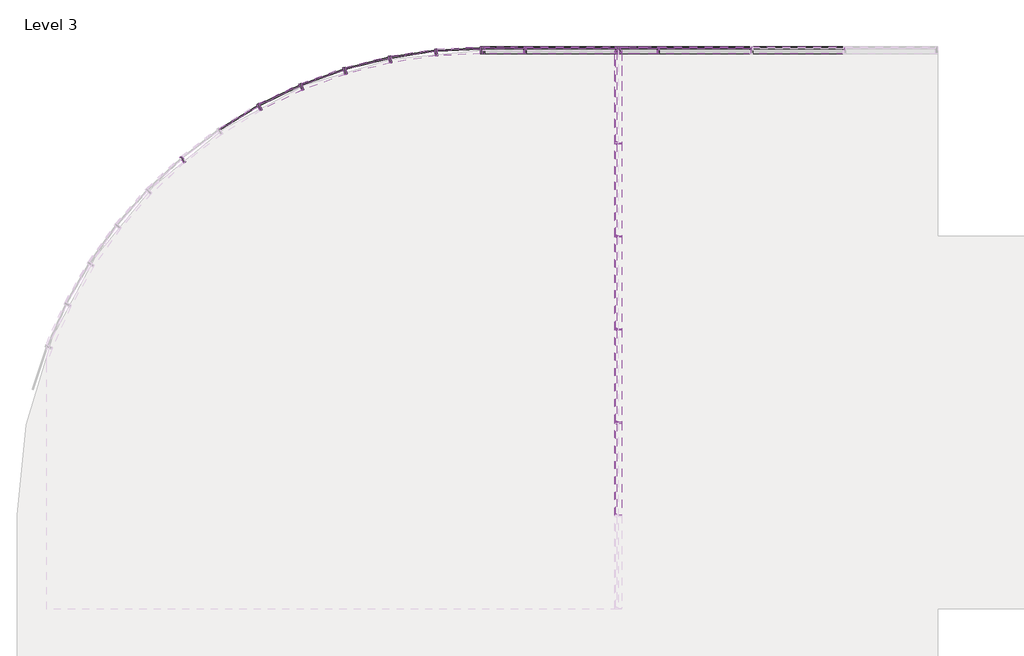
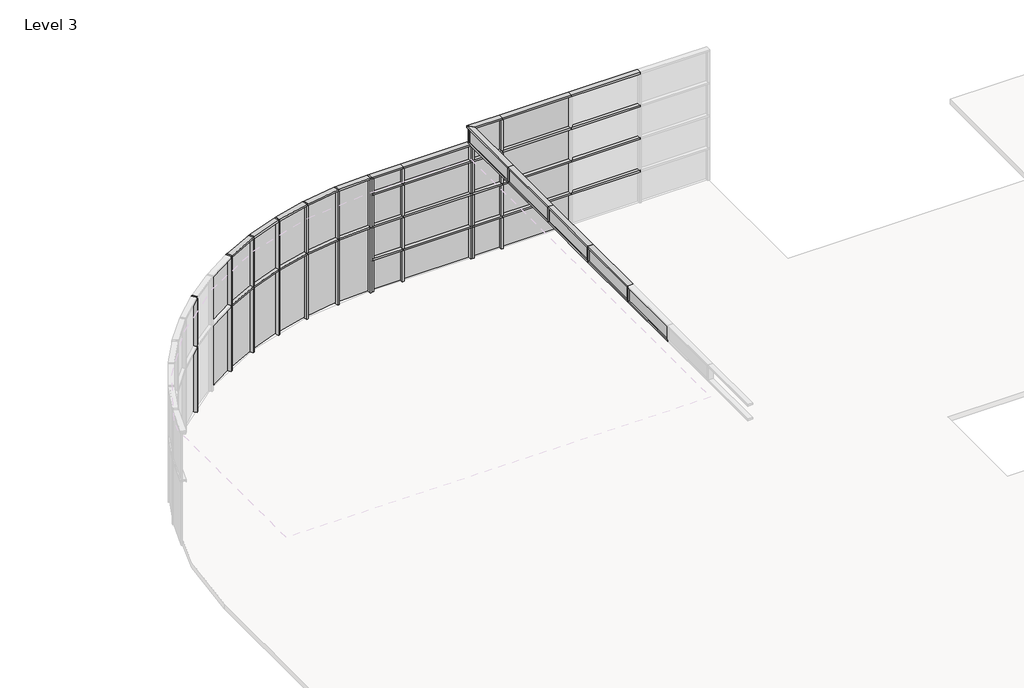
# One storey, part 5 of 6: 79 members, 33 plates.
"""IFC4 building model written with IfcOpenShell, lengths in millimetres."""

from ifc_helpers import new_model, si_unit, origin, place, context, project, spatial, transform, mapped, element, save
from components import rectangular_mullion_50_x_150mm_a053b0ca, rectangular_mullion_50_x_150mm_aa47fe12, rectangular_mullion_50_x_150mm_3a148f0f, rectangular_mullion_50_x_150mm_12a430f9, rectangular_mullion_50_x_150mm_7b680336, rectangular_mullion_50_x_150mm_628d028e, rectangular_mullion_50_x_150mm_11df4cda, rectangular_mullion_50_x_150mm_92e7435e, rectangular_mullion_50_x_150mm_326b7c62, rectangular_mullion_50_x_150mm_a54f4cf2, rectangular_mullion_50_x_150mm_f8023bcf, rectangular_mullion_50_x_150mm_25f32059, rectangular_mullion_50_x_150mm_4ec38d8a, rectangular_mullion_50_x_150mm_3195318e, rectangular_mullion_50_x_150mm_5088cc46, rectangular_mullion_50_x_150mm_9aace082, rectangular_mullion_50_x_150mm_a06870f1, rectangular_mullion_50_x_150mm_0c16550b, rectangular_mullion_50_x_150mm_f1bc9ffe, rectangular_mullion_50_x_150mm_c4a1d10e, rectangular_mullion_50_x_150mm_947845bb, system_panel_glazed_751a585c, system_panel_glazed_08de6f5f, system_panel_glazed_378b0738, system_panel_glazed_10bebfc7, system_panel_glazed_ff23e140, system_panel_glazed_c2d2b348, system_panel_glazed_b9387e44, system_panel_glazed_35008834, system_panel_glazed_24c71900, system_panel_glazed_252945b7, system_panel_glazed_f6651b73, system_panel_glazed_3868a10e, system_panel_glazed_3cd28d6c

model = new_model("IFC4")

# Units and contexts
model_context = context("Model", 3, world=origin())
ifc_project = project(units=[si_unit("LENGTHUNIT", "METRE", prefix="MILLI")], contexts=[model_context])

# Site, building, storey
site = spatial("IfcSite", under=ifc_project)
building = spatial("IfcBuilding", under=site)
storey = spatial("IfcBuildingStorey", under=building, Name="Level 3", Elevation=8000.0)

# Members
placement = place(None, origin())
rectangular_mullion_50_x_150mm_shape = rectangular_mullion_50_x_150mm_a053b0ca(model_context)
element("IfcMember", 1, ObjectType="Rectangular Mullion : 50 x 150mm", at=placement, inside=storey, context=model_context, shape_type="MappedRepresentation", body=[
    mapped(rectangular_mullion_50_x_150mm_shape, transform((-7587.173406, 8375.9839566, 8025.0), x_axis=(-1.0, 0.0, 0.0), y_axis=(0.0, 1.0, 0.0), z_axis=(0.0, 0.0, -1.0))),
])
element("IfcMember", 2, ObjectType="Rectangular Mullion : 50 x 150mm", at=placement, inside=storey, context=model_context, shape_type="MappedRepresentation", body=[
    mapped(rectangular_mullion_50_x_150mm_shape, transform((-7587.173406, 8375.9839566, 9025.0), x_axis=(-1.0, 0.0, 0.0), y_axis=(0.0, 1.0, 0.0), z_axis=(0.0, 0.0, -0.9999999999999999))),
])
element("IfcMember", 3, ObjectType="Rectangular Mullion : 50 x 150mm", at=placement, inside=storey, context=model_context, shape_type="MappedRepresentation", body=[
    mapped(rectangular_mullion_50_x_150mm_shape, transform((-7587.173406, 8375.9839566, 10025.0), x_axis=(-1.0, 0.0, 0.0), y_axis=(0.0, 1.0, 0.0), z_axis=(0.0, 0.0, -1.0))),
])
element("IfcMember", 4, ObjectType="Rectangular Mullion : 50 x 150mm", at=placement, inside=storey, context=model_context, shape_type="MappedRepresentation", body=[
    mapped(rectangular_mullion_50_x_150mm_shape, transform((-4721.580781, 8375.9839566, 8025.0), x_axis=(-1.0, 0.0, 0.0), y_axis=(0.0, 1.0, 0.0), z_axis=(0.0, 0.0, -1.0))),
])
element("IfcMember", 5, ObjectType="Rectangular Mullion : 50 x 150mm", at=placement, inside=storey, context=model_context, shape_type="MappedRepresentation", body=[
    mapped(rectangular_mullion_50_x_150mm_shape, transform((-4721.580781, 8375.9839566, 9025.0), x_axis=(-1.0, 0.0, 0.0), y_axis=(0.0, 1.0, 0.0), z_axis=(0.0, 0.0, -0.9999999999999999))),
])
element("IfcMember", 6, ObjectType="Rectangular Mullion : 50 x 150mm", at=placement, inside=storey, context=model_context, shape_type="MappedRepresentation", body=[
    mapped(rectangular_mullion_50_x_150mm_shape, transform((-4721.580781, 8375.9839566, 10025.0), x_axis=(-1.0, 0.0, 0.0), y_axis=(0.0, 1.0, 0.0), z_axis=(0.0, 0.0, -1.0))),
])
element("IfcMember", 7, ObjectType="Rectangular Mullion : 50 x 150mm", at=placement, inside=storey, context=model_context, shape_type="MappedRepresentation", body=[
    mapped(rectangular_mullion_50_x_150mm_shape, transform((-4721.580781, 8375.9839566, 11025.0), x_axis=(-1.0, 0.0, 0.0), y_axis=(0.0, 1.0, 0.0), z_axis=(0.0, 0.0, -0.9999999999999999))),
])
rectangular_mullion_50_x_150mm_2_shape = rectangular_mullion_50_x_150mm_aa47fe12(model_context)
element("IfcMember", 8, ObjectType="Rectangular Mullion : 50 x 150mm", at=placement, inside=storey, context=model_context, shape_type="MappedRepresentation", body=[
    mapped(rectangular_mullion_50_x_150mm_2_shape, transform((-7587.173406, 8375.9839566, 11530.2574105), x_axis=(0.0, 0.0, 1.0), y_axis=(0.0, 1.0, 0.0), z_axis=(-1.0, 0.0, 0.0))),
])
element("IfcMember", 9, ObjectType="Rectangular Mullion : 50 x 150mm", at=placement, inside=storey, context=model_context, shape_type="MappedRepresentation", body=[
    mapped(rectangular_mullion_50_x_150mm_2_shape, transform((-5587.173406, 6375.9839566, 11530.2574105), x_axis=(0.0, 0.0, -1.0), y_axis=(-1.0, 0.0, 0.0), z_axis=(0.0, 1.0, 0.0))),
])
element("IfcMember", 10, ObjectType="Rectangular Mullion : 50 x 150mm", at=placement, inside=storey, context=model_context, shape_type="MappedRepresentation", body=[
    mapped(rectangular_mullion_50_x_150mm_2_shape, transform((-5587.173406, 4375.9839566, 11530.2574105), x_axis=(0.0, 0.0, -1.0), y_axis=(-1.0, 0.0, 0.0), z_axis=(0.0, 1.0, 0.0))),
])
element("IfcMember", 11, ObjectType="Rectangular Mullion : 50 x 150mm", at=placement, inside=storey, context=model_context, shape_type="MappedRepresentation", body=[
    mapped(rectangular_mullion_50_x_150mm_2_shape, transform((-5587.173406, 2375.9839566, 11530.2574105), x_axis=(0.0, 0.0, -1.0), y_axis=(-1.0, 0.0, 0.0), z_axis=(0.0, 1.0, 0.0))),
])
element("IfcMember", 12, ObjectType="Rectangular Mullion : 50 x 150mm", at=placement, inside=storey, context=model_context, shape_type="MappedRepresentation", body=[
    mapped(rectangular_mullion_50_x_150mm_2_shape, transform((-5587.173406, 375.9839566, 11530.2574105), x_axis=(0.0, 0.0, -1.0), y_axis=(-1.0, 0.0, 0.0), z_axis=(0.0, 1.0, 0.0))),
])
element("IfcMember", 13, ObjectType="Rectangular Mullion : 50 x 150mm", at=placement, inside=storey, context=model_context, shape_type="MappedRepresentation", body=[
    mapped(rectangular_mullion_50_x_150mm_2_shape, transform((-8496.7339025, 8375.9839566, 10000.0), x_axis=(0.998749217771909, 0.049999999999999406, 0.0), y_axis=(-0.049999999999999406, 0.998749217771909, 0.0), z_axis=(0.0, 0.0, 1.0))),
])
rectangular_mullion_50_x_150mm_3_shape = rectangular_mullion_50_x_150mm_3a148f0f(model_context)
element("IfcMember", 14, ObjectType="Rectangular Mullion : 50 x 150mm", at=placement, inside=storey, context=model_context, shape_type="MappedRepresentation", body=[
    mapped(rectangular_mullion_50_x_150mm_3_shape, transform((-5587.173406, 4375.9839566, 12000.0), x_axis=(0.0, 0.0, 1.0), y_axis=(-1.0, 0.0, 0.0), z_axis=(0.0, -1.0, 0.0))),
])
element("IfcMember", 15, ObjectType="Rectangular Mullion : 50 x 150mm", at=placement, inside=storey, context=model_context, shape_type="MappedRepresentation", body=[
    mapped(rectangular_mullion_50_x_150mm_3_shape, transform((-5587.173406, 2375.9839566, 12000.0), x_axis=(0.0, 0.0, 1.0), y_axis=(-1.0, 0.0, 0.0), z_axis=(0.0, -1.0, 0.0))),
])
element("IfcMember", 16, ObjectType="Rectangular Mullion : 50 x 150mm", at=placement, inside=storey, context=model_context, shape_type="MappedRepresentation", body=[
    mapped(rectangular_mullion_50_x_150mm_3_shape, transform((-5587.173406, 375.9839566, 12000.0), x_axis=(0.0, 0.0, 1.0), y_axis=(-1.0, 0.0, 0.0), z_axis=(0.0, -1.0, 0.0))),
])
element("IfcMember", 17, ObjectType="Rectangular Mullion : 50 x 150mm", at=placement, inside=storey, context=model_context, shape_type="MappedRepresentation", body=[
    mapped(rectangular_mullion_50_x_150mm_3_shape, transform((-9495.4831202, 8325.9839566, 8000.0), x_axis=(-0.9950000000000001, -0.09987492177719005, 0.0), y_axis=(-0.09987492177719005, 0.9950000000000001, 0.0), z_axis=(0.0, 0.0, -1.0))),
])
element("IfcMember", 18, ObjectType="Rectangular Mullion : 50 x 150mm", at=placement, inside=storey, context=model_context, shape_type="MappedRepresentation", body=[
    mapped(rectangular_mullion_50_x_150mm_3_shape, transform((-10484.2448458, 8176.4839566, 8000.0), x_axis=(-0.9800500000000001, -0.1987510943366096, 0.0), y_axis=(-0.1987510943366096, 0.9800500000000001, 0.0), z_axis=(0.0, 0.0, -1.0))),
])
element("IfcMember", 19, ObjectType="Rectangular Mullion : 50 x 150mm", at=placement, inside=storey, context=model_context, shape_type="MappedRepresentation", body=[
    mapped(rectangular_mullion_50_x_150mm_3_shape, transform((-11453.131462, 7928.9789566, 8000.0), x_axis=(-0.9552995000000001, -0.29563975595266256, 0.0), y_axis=(-0.29563975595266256, 0.9552995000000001, 0.0), z_axis=(0.0, 0.0, -1.0))),
])
element("IfcMember", 20, ObjectType="Rectangular Mullion : 50 x 150mm", at=placement, inside=storey, context=model_context, shape_type="MappedRepresentation", body=[
    mapped(rectangular_mullion_50_x_150mm_3_shape, transform((-12392.4541026, 7585.9440066, 8000.0), x_axis=(-0.9209960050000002, -0.38957202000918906, 0.0), y_axis=(-0.38957202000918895, 0.920996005, 0.0), z_axis=(0.0, 0.0, -1.0))),
])
element("IfcMember", 21, ObjectType="Rectangular Mullion : 50 x 150mm", at=placement, inside=storey, context=model_context, shape_type="MappedRepresentation", body=[
    mapped(rectangular_mullion_50_x_150mm_3_shape, transform((-13292.8195411, 7150.8094561, 8000.0), x_axis=(-0.87748254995, -0.4796085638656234, 0.0), y_axis=(-0.4796085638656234, 0.87748254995, 0.0), z_axis=(0.0, 0.0, -1.0))),
])
element("IfcMember", 22, ObjectType="Rectangular Mullion : 50 x 150mm", at=placement, inside=storey, context=model_context, shape_type="MappedRepresentation", body=[
    mapped(rectangular_mullion_50_x_150mm_3_shape, transform((-14941.1438033, 6022.5244181, 8000.0), x_axis=(-0.7646540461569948, -0.6444409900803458, 0.0), y_axis=(-0.6444409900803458, 0.7646540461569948, 0.0), z_axis=(0.0, 0.0, -1.0))),
])
element("IfcMember", 23, ObjectType="Rectangular Mullion : 50 x 150mm", at=placement, inside=storey, context=model_context, shape_type="MappedRepresentation", body=[
    mapped(rectangular_mullion_50_x_150mm_3_shape, transform((-2721.580781, 8375.9839566, 9000.0), x_axis=(0.0, 0.0, 1.0), y_axis=(0.0, 1.0, 0.0), z_axis=(-1.0, 0.0, 0.0))),
])
element("IfcMember", 24, ObjectType="Rectangular Mullion : 50 x 150mm", at=placement, inside=storey, context=model_context, shape_type="MappedRepresentation", body=[
    mapped(rectangular_mullion_50_x_150mm_3_shape, transform((-4721.580781, 8375.9839566, 9000.0), x_axis=(0.0, 0.0, 1.0), y_axis=(0.0, 1.0, 0.0), z_axis=(-1.0, 0.0, 0.0))),
])
element("IfcMember", 25, ObjectType="Rectangular Mullion : 50 x 150mm", at=placement, inside=storey, context=model_context, shape_type="MappedRepresentation", body=[
    mapped(rectangular_mullion_50_x_150mm_3_shape, transform((-2721.580781, 8375.9839566, 10000.0), x_axis=(0.0, 0.0, 1.0), y_axis=(0.0, 1.0, 0.0), z_axis=(-1.0, 0.0, 0.0))),
])
element("IfcMember", 26, ObjectType="Rectangular Mullion : 50 x 150mm", at=placement, inside=storey, context=model_context, shape_type="MappedRepresentation", body=[
    mapped(rectangular_mullion_50_x_150mm_3_shape, transform((-4721.580781, 8375.9839566, 10000.0), x_axis=(0.0, 0.0, 1.0), y_axis=(0.0, 1.0, 0.0), z_axis=(-1.0, 0.0, 0.0))),
])
element("IfcMember", 27, ObjectType="Rectangular Mullion : 50 x 150mm", at=placement, inside=storey, context=model_context, shape_type="MappedRepresentation", body=[
    mapped(rectangular_mullion_50_x_150mm_3_shape, transform((-2721.580781, 8375.9839566, 11000.0), x_axis=(0.0, 0.0, 1.0), y_axis=(0.0, 1.0, 0.0), z_axis=(-1.0, 0.0, 0.0))),
])
element("IfcMember", 28, ObjectType="Rectangular Mullion : 50 x 150mm", at=placement, inside=storey, context=model_context, shape_type="MappedRepresentation", body=[
    mapped(rectangular_mullion_50_x_150mm_3_shape, transform((-4721.580781, 8375.9839566, 11000.0), x_axis=(0.0, 0.0, 1.0), y_axis=(0.0, 1.0, 0.0), z_axis=(-1.0, 0.0, 0.0))),
])
element("IfcMember", 29, ObjectType="Rectangular Mullion : 50 x 150mm", at=placement, inside=storey, context=model_context, shape_type="MappedRepresentation", body=[
    mapped(rectangular_mullion_50_x_150mm_3_shape, transform((-2721.580781, 8375.9839566, 12000.0), x_axis=(0.0, 0.0, 1.0), y_axis=(0.0, 1.0, 0.0), z_axis=(-1.0, 0.0, 0.0))),
])
element("IfcMember", 30, ObjectType="Rectangular Mullion : 50 x 150mm", at=placement, inside=storey, context=model_context, shape_type="MappedRepresentation", body=[
    mapped(rectangular_mullion_50_x_150mm_3_shape, transform((-4721.580781, 8375.9839566, 12000.0), x_axis=(0.0, 0.0, 1.0), y_axis=(0.0, 1.0, 0.0), z_axis=(-1.0, 0.0, 0.0))),
])
element("IfcMember", 31, ObjectType="Rectangular Mullion : 50 x 150mm", at=placement, inside=storey, context=model_context, shape_type="MappedRepresentation", body=[
    mapped(rectangular_mullion_50_x_150mm_2_shape, transform((-5587.173406, 8375.9839566, 11530.2574105), x_axis=(0.0, 0.0, -1.0), y_axis=(-1.0, 0.0, 0.0), z_axis=(0.0, 0.9999999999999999, 0.0))),
])
rectangular_mullion_50_x_150mm_4_shape = rectangular_mullion_50_x_150mm_12a430f9(model_context)
element("IfcMember", 32, ObjectType="Rectangular Mullion : 50 x 150mm", at=placement, inside=storey, context=model_context, shape_type="MappedRepresentation", body=[
    mapped(rectangular_mullion_50_x_150mm_4_shape, transform((-5587.173406, 8375.9839566, 8975.0), x_axis=(1.0, 0.0, 0.0), y_axis=(0.0, 1.0, 0.0), z_axis=(0.0, 0.0, 1.0))),
])
element("IfcMember", 33, ObjectType="Rectangular Mullion : 50 x 150mm", at=placement, inside=storey, context=model_context, shape_type="MappedRepresentation", body=[
    mapped(rectangular_mullion_50_x_150mm_4_shape, transform((-5587.173406, 8375.9839566, 9975.0), x_axis=(1.0, 0.0, 0.0), y_axis=(0.0, 1.0, 0.0), z_axis=(0.0, 0.0, 0.9999999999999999))),
])
element("IfcMember", 34, ObjectType="Rectangular Mullion : 50 x 150mm", at=placement, inside=storey, context=model_context, shape_type="MappedRepresentation", body=[
    mapped(rectangular_mullion_50_x_150mm_4_shape, transform((-5587.173406, 8375.9839566, 10975.0), x_axis=(1.0, 0.0, 0.0), y_axis=(0.0, 1.0, 0.0), z_axis=(0.0, 0.0, 1.0))),
])
element("IfcMember", 35, ObjectType="Rectangular Mullion : 50 x 150mm", at=placement, inside=storey, context=model_context, shape_type="MappedRepresentation", body=[
    mapped(rectangular_mullion_50_x_150mm_4_shape, transform((-8496.7339025, 8375.9839566, 8025.0), x_axis=(-1.0, 0.0, 0.0), y_axis=(0.0, 1.0, 0.0), z_axis=(0.0, 0.0, -1.0))),
])
element("IfcMember", 36, ObjectType="Rectangular Mullion : 50 x 150mm", at=placement, inside=storey, context=model_context, shape_type="MappedRepresentation", body=[
    mapped(rectangular_mullion_50_x_150mm_4_shape, transform((-8496.7339025, 8375.9839566, 9025.0), x_axis=(-1.0, 0.0, 0.0), y_axis=(0.0, 1.0, 0.0), z_axis=(0.0, 0.0, -0.9999999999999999))),
])
element("IfcMember", 37, ObjectType="Rectangular Mullion : 50 x 150mm", at=placement, inside=storey, context=model_context, shape_type="MappedRepresentation", body=[
    mapped(rectangular_mullion_50_x_150mm_4_shape, transform((-8496.7339025, 8375.9839566, 10025.0), x_axis=(-1.0, 0.0, 0.0), y_axis=(0.0, 1.0, 0.0), z_axis=(0.0, 0.0, -1.0))),
])
element("IfcMember", 38, ObjectType="Rectangular Mullion : 50 x 150mm", at=placement, inside=storey, context=model_context, shape_type="MappedRepresentation", body=[
    mapped(rectangular_mullion_50_x_150mm_4_shape, transform((-5587.173406, 8375.9839566, 8025.0), x_axis=(-1.0, 0.0, 0.0), y_axis=(0.0, 1.0, 0.0), z_axis=(0.0, 0.0, -1.0))),
])
element("IfcMember", 39, ObjectType="Rectangular Mullion : 50 x 150mm", at=placement, inside=storey, context=model_context, shape_type="MappedRepresentation", body=[
    mapped(rectangular_mullion_50_x_150mm_4_shape, transform((-5587.173406, 8375.9839566, 9025.0), x_axis=(-1.0, 0.0, 0.0), y_axis=(0.0, 1.0, 0.0), z_axis=(0.0, 0.0, -0.9999999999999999))),
])
element("IfcMember", 40, ObjectType="Rectangular Mullion : 50 x 150mm", at=placement, inside=storey, context=model_context, shape_type="MappedRepresentation", body=[
    mapped(rectangular_mullion_50_x_150mm_4_shape, transform((-5587.173406, 8375.9839566, 10025.0), x_axis=(-1.0, 0.0, 0.0), y_axis=(0.0, 1.0, 0.0), z_axis=(0.0, 0.0, -1.0))),
])
rectangular_mullion_50_x_150mm_5_shape = rectangular_mullion_50_x_150mm_7b680336(model_context)
element("IfcMember", 41, ObjectType="Rectangular Mullion : 50 x 150mm", at=placement, inside=storey, context=model_context, shape_type="MappedRepresentation", body=[
    mapped(rectangular_mullion_50_x_150mm_5_shape, transform((-5587.173406, 6375.9839566, 11580.2574105), x_axis=(0.0, -1.0, 0.0), y_axis=(-1.0, 0.0, 0.0), z_axis=(0.0, 0.0, -0.9999999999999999))),
])
element("IfcMember", 42, ObjectType="Rectangular Mullion : 50 x 150mm", at=placement, inside=storey, context=model_context, shape_type="MappedRepresentation", body=[
    mapped(rectangular_mullion_50_x_150mm_5_shape, transform((-5587.173406, 4375.9839566, 11580.2574105), x_axis=(0.0, -1.0, 0.0), y_axis=(-1.0, 0.0, 0.0), z_axis=(0.0, 0.0, -0.9999999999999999))),
])
element("IfcMember", 43, ObjectType="Rectangular Mullion : 50 x 150mm", at=placement, inside=storey, context=model_context, shape_type="MappedRepresentation", body=[
    mapped(rectangular_mullion_50_x_150mm_5_shape, transform((-5587.173406, 2375.9839566, 11580.2574105), x_axis=(0.0, -1.0, 0.0), y_axis=(-1.0, 0.0, 0.0), z_axis=(0.0, 0.0, -0.9999999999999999))),
])
element("IfcMember", 44, ObjectType="Rectangular Mullion : 50 x 150mm", at=placement, inside=storey, context=model_context, shape_type="MappedRepresentation", body=[
    mapped(rectangular_mullion_50_x_150mm_5_shape, transform((-5587.173406, 375.9839566, 11580.2574105), x_axis=(0.0, -1.0, 0.0), y_axis=(-1.0, 0.0, 0.0), z_axis=(0.0, 0.0, -0.9999999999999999))),
])
rectangular_mullion_50_x_150mm_6_shape = rectangular_mullion_50_x_150mm_628d028e(model_context)
element("IfcMember", 45, ObjectType="Rectangular Mullion : 50 x 150mm", at=placement, inside=storey, context=model_context, shape_type="MappedRepresentation", body=[
    mapped(rectangular_mullion_50_x_150mm_6_shape, transform((-5587.173406, 8375.9839566, 11975.0), x_axis=(0.0, 1.0, 0.0), y_axis=(-1.0, 0.0, 0.0), z_axis=(0.0, 0.0, 0.9999999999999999))),
])
rectangular_mullion_50_x_150mm_7_shape = rectangular_mullion_50_x_150mm_11df4cda(model_context)
element("IfcMember", 46, ObjectType="Rectangular Mullion : 50 x 150mm", at=placement, inside=storey, context=model_context, shape_type="MappedRepresentation", body=[
    mapped(rectangular_mullion_50_x_150mm_7_shape, transform((-8496.7339025, 8375.9839566, 11025.0), x_axis=(-1.0, 0.0, 0.0), y_axis=(0.0, 1.0, 0.0), z_axis=(0.0, 0.0, -1.0))),
])
rectangular_mullion_50_x_150mm_8_shape = rectangular_mullion_50_x_150mm_92e7435e(model_context)
element("IfcMember", 47, ObjectType="Rectangular Mullion : 50 x 150mm", at=placement, inside=storey, context=model_context, shape_type="MappedRepresentation", body=[
    mapped(rectangular_mullion_50_x_150mm_8_shape, transform((-7587.173406, 8375.9839566, 11025.0), x_axis=(-1.0, 0.0, 0.0), y_axis=(0.0, 1.0, 0.0), z_axis=(0.0, 0.0, -1.0))),
])
element("IfcMember", 48, ObjectType="Rectangular Mullion : 50 x 150mm", at=placement, inside=storey, context=model_context, shape_type="MappedRepresentation", body=[
    mapped(rectangular_mullion_50_x_150mm_7_shape, transform((-5587.173406, 8375.9839566, 11480.2574105), x_axis=(1.0, 0.0, 0.0), y_axis=(0.0, 1.0, 0.0), z_axis=(0.0, 0.0, 1.0))),
])
rectangular_mullion_50_x_150mm_9_shape = rectangular_mullion_50_x_150mm_326b7c62(model_context)
element("IfcMember", 49, ObjectType="Rectangular Mullion : 50 x 150mm", at=placement, inside=storey, context=model_context, shape_type="MappedRepresentation", body=[
    mapped(rectangular_mullion_50_x_150mm_9_shape, transform((-9470.5143898, 8327.2339566, 11530.2574105), x_axis=(0.0, 0.0, 1.0), y_axis=(-0.04999999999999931, 0.9987492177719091, 0.0), z_axis=(-0.9987492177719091, -0.04999999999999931, 0.0))),
])
rectangular_mullion_50_x_150mm_10_shape = rectangular_mullion_50_x_150mm_a54f4cf2(model_context)
element("IfcMember", 50, ObjectType="Rectangular Mullion : 50 x 150mm", at=placement, inside=storey, context=model_context, shape_type="MappedRepresentation", body=[
    mapped(rectangular_mullion_50_x_150mm_10_shape, transform((-10459.5258027, 8180.2214566, 11530.2574105), x_axis=(0.0, 0.0, 1.0), y_axis=(-0.14950000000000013, 0.98876172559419, 0.0), z_axis=(-0.98876172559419, -0.14950000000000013, 0.0))),
])
element("IfcMember", 51, ObjectType="Rectangular Mullion : 50 x 150mm", at=placement, inside=storey, context=model_context, shape_type="MappedRepresentation", body=[
    mapped(rectangular_mullion_50_x_150mm_10_shape, transform((-11428.9092966, 7935.1665816, 11530.2574105), x_axis=(0.0, 0.0, 1.0), y_axis=(-0.24750499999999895, 0.9688866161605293, 0.0), z_axis=(-0.9688866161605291, -0.2475049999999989, 0.0))),
])
element("IfcMember", 52, ObjectType="Rectangular Mullion : 50 x 150mm", at=placement, inside=storey, context=model_context, shape_type="MappedRepresentation", body=[
    mapped(rectangular_mullion_50_x_150mm_10_shape, transform((-12368.9710366, 7594.5198803, 11530.2574105), x_axis=(0.0, 0.0, 1.0), y_axis=(-0.3430349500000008, 0.9393226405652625, 0.0), z_axis=(-0.9393226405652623, -0.3430349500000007, 0.0))),
])
element("IfcMember", 53, ObjectType="Rectangular Mullion : 50 x 150mm", at=placement, inside=storey, context=model_context, shape_type="MappedRepresentation", body=[
    mapped(rectangular_mullion_50_x_150mm_10_shape, transform((-13270.3104052, 7161.6878198, 11530.2574105), x_axis=(0.0, 0.0, 1.0), y_axis=(-0.43513455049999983, 0.900365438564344, 0.0), z_axis=(-0.9003654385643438, -0.4351345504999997, 0.0))),
])
rectangular_mullion_50_x_150mm_11_shape = rectangular_mullion_50_x_150mm_f8023bcf(model_context)
element("IfcMember", 54, ObjectType="Rectangular Mullion : 50 x 150mm", at=placement, inside=storey, context=model_context, shape_type="MappedRepresentation", body=[
    mapped(rectangular_mullion_50_x_150mm_11_shape, transform((-9470.5143898, 8327.2339566, 10000.0), x_axis=(0.0, 0.0, 0.9999999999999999), y_axis=(-0.049999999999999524, 0.9987492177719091, 0.0), z_axis=(-0.998749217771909, -0.04999999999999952, 0.0))),
])
rectangular_mullion_50_x_150mm_12_shape = rectangular_mullion_50_x_150mm_25f32059(model_context)
element("IfcMember", 55, ObjectType="Rectangular Mullion : 50 x 150mm", at=placement, inside=storey, context=model_context, shape_type="MappedRepresentation", body=[
    mapped(rectangular_mullion_50_x_150mm_12_shape, transform((-10459.5258027, 8180.2214566, 10000.0), x_axis=(0.0, 0.0, 0.9999999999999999), y_axis=(-0.14950000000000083, 0.9887617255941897, 0.0), z_axis=(-0.9887617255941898, -0.14950000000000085, 0.0))),
])
element("IfcMember", 56, ObjectType="Rectangular Mullion : 50 x 150mm", at=placement, inside=storey, context=model_context, shape_type="MappedRepresentation", body=[
    mapped(rectangular_mullion_50_x_150mm_12_shape, transform((-11428.9092966, 7935.1665816, 10000.0), x_axis=(0.0, 0.0, 0.9999999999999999), y_axis=(-0.24750499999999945, 0.9688866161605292, 0.0), z_axis=(-0.9688866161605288, -0.24750499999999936, 0.0))),
])
element("IfcMember", 57, ObjectType="Rectangular Mullion : 50 x 150mm", at=placement, inside=storey, context=model_context, shape_type="MappedRepresentation", body=[
    mapped(rectangular_mullion_50_x_150mm_12_shape, transform((-12368.9710366, 7594.5198803, 10000.0), x_axis=(0.0, 0.0, 0.9999999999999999), y_axis=(-0.34303495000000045, 0.9393226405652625, 0.0), z_axis=(-0.9393226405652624, -0.34303495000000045, 0.0))),
])
element("IfcMember", 58, ObjectType="Rectangular Mullion : 50 x 150mm", at=placement, inside=storey, context=model_context, shape_type="MappedRepresentation", body=[
    mapped(rectangular_mullion_50_x_150mm_12_shape, transform((-13270.3104052, 7161.6878198, 10000.0), x_axis=(0.0, 0.0, 1.0), y_axis=(-0.4351345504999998, 0.9003654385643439, 0.0), z_axis=(-0.9003654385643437, -0.43513455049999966, 0.0))),
])
rectangular_mullion_50_x_150mm_13_shape = rectangular_mullion_50_x_150mm_4ec38d8a(model_context)
element("IfcMember", 59, ObjectType="Rectangular Mullion : 50 x 150mm", at=placement, inside=storey, context=model_context, shape_type="MappedRepresentation", body=[
    mapped(rectangular_mullion_50_x_150mm_13_shape, transform((-9495.4831202, 8325.9839566, 10000.0), x_axis=(-0.9950000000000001, -0.09987492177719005, 0.0), y_axis=(-0.09987492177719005, 0.9950000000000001, 0.0), z_axis=(0.0, 0.0, -1.0))),
])
element("IfcMember", 60, ObjectType="Rectangular Mullion : 50 x 150mm", at=placement, inside=storey, context=model_context, shape_type="MappedRepresentation", body=[
    mapped(rectangular_mullion_50_x_150mm_13_shape, transform((-10484.2448458, 8176.4839566, 10000.0), x_axis=(-0.9800500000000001, -0.1987510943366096, 0.0), y_axis=(-0.1987510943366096, 0.9800500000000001, 0.0), z_axis=(0.0, 0.0, -1.0))),
])
element("IfcMember", 61, ObjectType="Rectangular Mullion : 50 x 150mm", at=placement, inside=storey, context=model_context, shape_type="MappedRepresentation", body=[
    mapped(rectangular_mullion_50_x_150mm_13_shape, transform((-11453.131462, 7928.9789566, 10000.0), x_axis=(-0.9552995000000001, -0.29563975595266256, 0.0), y_axis=(-0.29563975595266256, 0.9552995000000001, 0.0), z_axis=(0.0, 0.0, -1.0))),
])
element("IfcMember", 62, ObjectType="Rectangular Mullion : 50 x 150mm", at=placement, inside=storey, context=model_context, shape_type="MappedRepresentation", body=[
    mapped(rectangular_mullion_50_x_150mm_13_shape, transform((-12392.4541026, 7585.9440066, 10000.0), x_axis=(-0.9209960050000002, -0.38957202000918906, 0.0), y_axis=(-0.38957202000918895, 0.920996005, 0.0), z_axis=(0.0, 0.0, -1.0))),
])
element("IfcMember", 63, ObjectType="Rectangular Mullion : 50 x 150mm", at=placement, inside=storey, context=model_context, shape_type="MappedRepresentation", body=[
    mapped(rectangular_mullion_50_x_150mm_13_shape, transform((-13292.8195411, 7150.8094561, 10000.0), x_axis=(-0.87748254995, -0.4796085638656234, 0.0), y_axis=(-0.4796085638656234, 0.87748254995, 0.0), z_axis=(0.0, 0.0, -1.0))),
])
element("IfcMember", 64, ObjectType="Rectangular Mullion : 50 x 150mm", at=placement, inside=storey, context=model_context, shape_type="MappedRepresentation", body=[
    mapped(rectangular_mullion_50_x_150mm_13_shape, transform((-14941.1438033, 6022.5244181, 10000.0), x_axis=(-0.7646540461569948, -0.6444409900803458, 0.0), y_axis=(-0.6444409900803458, 0.7646540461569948, 0.0), z_axis=(0.0, 0.0, -1.0))),
])
rectangular_mullion_50_x_150mm_14_shape = rectangular_mullion_50_x_150mm_3195318e(model_context)
element("IfcMember", 65, ObjectType="Rectangular Mullion : 50 x 150mm", at=placement, inside=storey, context=model_context, shape_type="MappedRepresentation", body=[
    mapped(rectangular_mullion_50_x_150mm_14_shape, transform((-8496.7339025, 8375.9839566, 11530.2574105), x_axis=(0.998749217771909, 0.04999999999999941, 0.0), y_axis=(-0.04999999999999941, 0.998749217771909, 0.0), z_axis=(0.0, 0.0, 1.0))),
])
rectangular_mullion_50_x_150mm_15_shape = rectangular_mullion_50_x_150mm_5088cc46(model_context)
element("IfcMember", 66, ObjectType="Rectangular Mullion : 50 x 150mm", at=placement, inside=storey, context=model_context, shape_type="MappedRepresentation", body=[
    mapped(rectangular_mullion_50_x_150mm_15_shape, transform((-8496.7339025, 8375.9839566, 11530.2574105), x_axis=(0.0, 0.0, 1.0), y_axis=(0.0, 1.0, 0.0), z_axis=(-0.9999999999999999, 0.0, 0.0))),
])
rectangular_mullion_50_x_150mm_16_shape = rectangular_mullion_50_x_150mm_9aace082(model_context)
element("IfcMember", 67, ObjectType="Rectangular Mullion : 50 x 150mm", at=placement, inside=storey, context=model_context, shape_type="MappedRepresentation", body=[
    mapped(rectangular_mullion_50_x_150mm_16_shape, transform((-8496.7339025, 8375.9839566, 9000.0), x_axis=(0.0, 0.0, 1.0), y_axis=(0.0, 1.0, 0.0), z_axis=(-1.0, 0.0, 0.0))),
])
element("IfcMember", 68, ObjectType="Rectangular Mullion : 50 x 150mm", at=placement, inside=storey, context=model_context, shape_type="MappedRepresentation", body=[
    mapped(rectangular_mullion_50_x_150mm_16_shape, transform((-8496.7339025, 8375.9839566, 10000.0), x_axis=(0.0, 0.0, 1.0), y_axis=(0.0, 1.0, 0.0), z_axis=(-1.0, 0.0, 0.0))),
])
element("IfcMember", 69, ObjectType="Rectangular Mullion : 50 x 150mm", at=placement, inside=storey, context=model_context, shape_type="MappedRepresentation", body=[
    mapped(rectangular_mullion_50_x_150mm_16_shape, transform((-8496.7339025, 8375.9839566, 11000.0), x_axis=(0.0, 0.0, 1.0), y_axis=(0.0, 1.0, 0.0), z_axis=(-1.0, 0.0, 0.0))),
])
rectangular_mullion_50_x_150mm_17_shape = rectangular_mullion_50_x_150mm_a06870f1(model_context)
element("IfcMember", 70, ObjectType="Rectangular Mullion : 50 x 150mm", at=placement, inside=storey, context=model_context, shape_type="MappedRepresentation", body=[
    mapped(rectangular_mullion_50_x_150mm_17_shape, transform((-5587.173406, 8375.9839566, 11530.2574105), x_axis=(-1.0, 0.0, 0.0), y_axis=(0.0, 1.0, 0.0), z_axis=(0.0, 0.0, -0.9999999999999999))),
])
rectangular_mullion_50_x_150mm_18_shape = rectangular_mullion_50_x_150mm_0c16550b(model_context)
element("IfcMember", 71, ObjectType="Rectangular Mullion : 50 x 150mm", at=placement, inside=storey, context=model_context, shape_type="MappedRepresentation", body=[
    mapped(rectangular_mullion_50_x_150mm_18_shape, transform((-5587.173406, 8375.9839566, 11025.0), x_axis=(-1.0, 0.0, 0.0), y_axis=(0.0, 1.0, 0.0), z_axis=(0.0, 0.0, -1.0))),
])
rectangular_mullion_50_x_150mm_19_shape = rectangular_mullion_50_x_150mm_f1bc9ffe(model_context)
element("IfcMember", 72, ObjectType="Rectangular Mullion : 50 x 150mm", at=placement, inside=storey, context=model_context, shape_type="MappedRepresentation", body=[
    mapped(rectangular_mullion_50_x_150mm_19_shape, transform((-5587.173406, 8375.9839566, 10000.0), x_axis=(0.0, 0.0, 1.0), y_axis=(0.0, 1.0, 0.0), z_axis=(-1.0, 0.0, 0.0))),
])
element("IfcMember", 73, ObjectType="Rectangular Mullion : 50 x 150mm", at=placement, inside=storey, context=model_context, shape_type="MappedRepresentation", body=[
    mapped(rectangular_mullion_50_x_150mm_19_shape, transform((-5587.173406, 8375.9839566, 11000.0), x_axis=(0.0, 0.0, 1.0), y_axis=(0.0, 1.0, 0.0), z_axis=(-1.0, 0.0, 0.0))),
])
element("IfcMember", 74, ObjectType="Rectangular Mullion : 50 x 150mm", at=placement, inside=storey, context=model_context, shape_type="MappedRepresentation", body=[
    mapped(rectangular_mullion_50_x_150mm_19_shape, transform((-5587.173406, 8375.9839566, 9000.0), x_axis=(0.0, 0.0, 1.0), y_axis=(0.0, 1.0, 0.0), z_axis=(-1.0, 0.0, 0.0))),
])
rectangular_mullion_50_x_150mm_20_shape = rectangular_mullion_50_x_150mm_c4a1d10e(model_context)
element("IfcMember", 75, ObjectType="Rectangular Mullion : 50 x 150mm", at=placement, inside=storey, context=model_context, shape_type="MappedRepresentation", body=[
    mapped(rectangular_mullion_50_x_150mm_20_shape, transform((-5587.173406, 8375.9839566, 12000.0), x_axis=(0.0, 0.0, 1.0), y_axis=(0.0, 1.0, 0.0), z_axis=(-1.0, 0.0, 0.0))),
])
rectangular_mullion_50_x_150mm_21_shape = rectangular_mullion_50_x_150mm_947845bb(model_context)
element("IfcMember", 76, ObjectType="Rectangular Mullion : 50 x 150mm", at=placement, inside=storey, context=model_context, shape_type="MappedRepresentation", body=[
    mapped(rectangular_mullion_50_x_150mm_21_shape, transform((-5587.173406, 6375.9839566, 12000.0), x_axis=(0.0, 0.0, 1.0), y_axis=(-1.0, 0.0, 0.0), z_axis=(0.0, -1.0, 0.0))),
])
element("IfcMember", 77, ObjectType="Rectangular Mullion : 50 x 150mm", at=placement, inside=storey, context=model_context, shape_type="MappedRepresentation", body=[
    mapped(rectangular_mullion_50_x_150mm_3_shape, transform((-7587.173406, 8375.9839566, 9000.0), x_axis=(0.0, 0.0, 1.0), y_axis=(0.0, 1.0, 0.0), z_axis=(-1.0, 0.0, 0.0))),
])
element("IfcMember", 78, ObjectType="Rectangular Mullion : 50 x 150mm", at=placement, inside=storey, context=model_context, shape_type="MappedRepresentation", body=[
    mapped(rectangular_mullion_50_x_150mm_3_shape, transform((-7587.173406, 8375.9839566, 10000.0), x_axis=(0.0, 0.0, 1.0), y_axis=(0.0, 1.0, 0.0), z_axis=(-1.0, 0.0, 0.0))),
])
element("IfcMember", 79, ObjectType="Rectangular Mullion : 50 x 150mm", at=placement, inside=storey, context=model_context, shape_type="MappedRepresentation", body=[
    mapped(rectangular_mullion_50_x_150mm_3_shape, transform((-7587.173406, 8375.9839566, 11000.0), x_axis=(0.0, 0.0, 1.0), y_axis=(0.0, 1.0, 0.0), z_axis=(-1.0, 0.0, 0.0))),
])

# Plates
system_panel_glazed_shape = system_panel_glazed_751a585c(model_context)
element("IfcPlate", 80, ObjectType="System Panel : Glazed", at=placement, inside=storey, context=model_context, shape_type="MappedRepresentation", body=[
    mapped(system_panel_glazed_shape, transform((-5637.173406, 8375.9839566, 8500.0), x_axis=(0.0, 0.0, 1.0), y_axis=(0.0, 1.0, 0.0), z_axis=(-1.0, 0.0, 0.0))),
])
element("IfcPlate", 81, ObjectType="System Panel : Glazed", at=placement, inside=storey, context=model_context, shape_type="MappedRepresentation", body=[
    mapped(system_panel_glazed_shape, transform((-5637.173406, 8375.9839566, 9500.0), x_axis=(0.0, 0.0, 1.0), y_axis=(0.0, 1.0, 0.0), z_axis=(-1.0, 0.0, 0.0))),
])
element("IfcPlate", 82, ObjectType="System Panel : Glazed", at=placement, inside=storey, context=model_context, shape_type="MappedRepresentation", body=[
    mapped(system_panel_glazed_shape, transform((-5637.173406, 8375.9839566, 10500.0), x_axis=(0.0, 0.0, 1.0), y_axis=(0.0, 1.0, 0.0), z_axis=(-1.0, 0.0, 0.0))),
])
system_panel_glazed_2_shape = system_panel_glazed_08de6f5f(model_context)
element("IfcPlate", 83, ObjectType="System Panel : Glazed", at=placement, inside=storey, context=model_context, shape_type="MappedRepresentation", body=[
    mapped(system_panel_glazed_2_shape, transform((-2746.580781, 8375.9839566, 8500.0), x_axis=(0.0, 0.0, 1.0), y_axis=(0.0, 1.0, 0.0), z_axis=(-1.0, 0.0, 0.0))),
])
element("IfcPlate", 84, ObjectType="System Panel : Glazed", at=placement, inside=storey, context=model_context, shape_type="MappedRepresentation", body=[
    mapped(system_panel_glazed_2_shape, transform((-2746.580781, 8375.9839566, 9500.0), x_axis=(0.0, 0.0, 1.0), y_axis=(0.0, 1.0, 0.0), z_axis=(-1.0, 0.0, 0.0))),
])
element("IfcPlate", 85, ObjectType="System Panel : Glazed", at=placement, inside=storey, context=model_context, shape_type="MappedRepresentation", body=[
    mapped(system_panel_glazed_2_shape, transform((-2746.580781, 8375.9839566, 10500.0), x_axis=(0.0, 0.0, 1.0), y_axis=(0.0, 1.0, 0.0), z_axis=(-1.0, 0.0, 0.0))),
])
element("IfcPlate", 86, ObjectType="System Panel : Glazed", at=placement, inside=storey, context=model_context, shape_type="MappedRepresentation", body=[
    mapped(system_panel_glazed_2_shape, transform((-2746.580781, 8375.9839566, 11500.0), x_axis=(0.0, 0.0, 1.0), y_axis=(0.0, 1.0, 0.0), z_axis=(-1.0, 0.0, 0.0))),
])
system_panel_glazed_3_shape = system_panel_glazed_378b0738(model_context)
element("IfcPlate", 87, ObjectType="System Panel : Glazed", at=placement, inside=storey, context=model_context, shape_type="MappedRepresentation", body=[
    mapped(system_panel_glazed_3_shape, transform((-5587.173406, 8325.9839566, 11777.6287053), x_axis=(0.0, 0.0, 1.0), y_axis=(-1.0, 0.0, 0.0), z_axis=(0.0, -1.0, 0.0))),
])
system_panel_glazed_4_shape = system_panel_glazed_10bebfc7(model_context)
element("IfcPlate", 88, ObjectType="System Panel : Glazed", at=placement, inside=storey, context=model_context, shape_type="MappedRepresentation", body=[
    mapped(system_panel_glazed_4_shape, transform((-5587.173406, 6350.9839566, 11777.6287053), x_axis=(0.0, 0.0, 1.0), y_axis=(-1.0, 0.0, 0.0), z_axis=(0.0, -1.0, 0.0))),
])
element("IfcPlate", 89, ObjectType="System Panel : Glazed", at=placement, inside=storey, context=model_context, shape_type="MappedRepresentation", body=[
    mapped(system_panel_glazed_4_shape, transform((-5587.173406, 4350.9839566, 11777.6287053), x_axis=(0.0, 0.0, 1.0), y_axis=(-1.0, 0.0, 0.0), z_axis=(0.0, -1.0, 0.0))),
])
element("IfcPlate", 90, ObjectType="System Panel : Glazed", at=placement, inside=storey, context=model_context, shape_type="MappedRepresentation", body=[
    mapped(system_panel_glazed_4_shape, transform((-5587.173406, 2350.9839566, 11777.6287053), x_axis=(0.0, 0.0, 1.0), y_axis=(-1.0, 0.0, 0.0), z_axis=(0.0, -1.0, 0.0))),
])
element("IfcPlate", 91, ObjectType="System Panel : Glazed", at=placement, inside=storey, context=model_context, shape_type="MappedRepresentation", body=[
    mapped(system_panel_glazed_4_shape, transform((-5587.173406, 350.9839566, 11777.6287053), x_axis=(0.0, 0.0, 1.0), y_axis=(-1.0, 0.0, 0.0), z_axis=(0.0, -1.0, 0.0))),
])
system_panel_glazed_5_shape = system_panel_glazed_ff23e140(model_context)
element("IfcPlate", 92, ObjectType="System Panel : Glazed", at=placement, inside=storey, context=model_context, shape_type="MappedRepresentation", body=[
    mapped(system_panel_glazed_5_shape, transform((-5637.173406, 8375.9839566, 11252.6287053), x_axis=(0.0, 0.0, 1.0), y_axis=(0.0, 1.0, 0.0), z_axis=(-1.0, 0.0, 0.0))),
])
system_panel_glazed_6_shape = system_panel_glazed_c2d2b348(model_context)
element("IfcPlate", 93, ObjectType="System Panel : Glazed", at=placement, inside=storey, context=model_context, shape_type="MappedRepresentation", body=[
    mapped(system_panel_glazed_6_shape, transform((-9008.5928766, 8350.3589566, 8025.0), x_axis=(-0.998749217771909, -0.049999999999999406, 0.0), y_axis=(0.049999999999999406, -0.998749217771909, 0.0), z_axis=(0.0, 0.0, 1.0))),
])
system_panel_glazed_7_shape = system_panel_glazed_b9387e44(model_context)
element("IfcPlate", 94, ObjectType="System Panel : Glazed", at=placement, inside=storey, context=model_context, shape_type="MappedRepresentation", body=[
    mapped(system_panel_glazed_7_shape, transform((-9989.863983, 8251.2339566, 8025.0), x_axis=(-0.9887617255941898, -0.1495000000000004, 0.0), y_axis=(0.1495000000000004, -0.9887617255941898, 0.0), z_axis=(0.0, 0.0, 1.0))),
])
element("IfcPlate", 95, ObjectType="System Panel : Glazed", at=placement, inside=storey, context=model_context, shape_type="MappedRepresentation", body=[
    mapped(system_panel_glazed_7_shape, transform((-10968.6881539, 8052.7314566, 8025.0), x_axis=(-0.9688866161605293, -0.24750499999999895, 0.0), y_axis=(0.24750499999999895, -0.9688866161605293, 0.0), z_axis=(0.0, 0.0, 1.0))),
])
element("IfcPlate", 96, ObjectType="System Panel : Glazed", at=placement, inside=storey, context=model_context, shape_type="MappedRepresentation", body=[
    mapped(system_panel_glazed_7_shape, transform((-11922.7927823, 7757.4614816, 8025.0), x_axis=(-0.9393226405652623, -0.3430349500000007, 0.0), y_axis=(0.3430349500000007, -0.9393226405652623, 0.0), z_axis=(0.0, 0.0, 1.0))),
])
element("IfcPlate", 97, ObjectType="System Panel : Glazed", at=placement, inside=storey, context=model_context, shape_type="MappedRepresentation", body=[
    mapped(system_panel_glazed_7_shape, transform((-12842.6368218, 7368.3767313, 8025.0), x_axis=(-0.9003654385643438, -0.43513455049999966, 0.0), y_axis=(0.43513455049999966, -0.9003654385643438, 0.0), z_axis=(0.0, 0.0, 1.0))),
])
element("IfcPlate", 98, ObjectType="System Panel : Glazed", at=placement, inside=storey, context=model_context, shape_type="MappedRepresentation", body=[
    mapped(system_panel_glazed_7_shape, transform((-13719.0218322, 6889.3680533, 8025.0), x_axis=(-0.8524045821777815, -0.5228828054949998, 0.0), y_axis=(0.5228828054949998, -0.8524045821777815, 0.0), z_axis=(0.0, 0.0, 1.0))),
])
system_panel_glazed_8_shape = system_panel_glazed_35008834(model_context)
element("IfcPlate", 99, ObjectType="System Panel : Glazed", at=placement, inside=storey, context=model_context, shape_type="MappedRepresentation", body=[
    mapped(system_panel_glazed_8_shape, transform((-9008.5928766, 8350.3589566, 10025.0), x_axis=(-0.998749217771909, -0.04999999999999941, 0.0), y_axis=(0.04999999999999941, -0.998749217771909, 0.0), z_axis=(0.0, 0.0, 1.0))),
])
system_panel_glazed_9_shape = system_panel_glazed_24c71900(model_context)
element("IfcPlate", 100, ObjectType="System Panel : Glazed", at=placement, inside=storey, context=model_context, shape_type="MappedRepresentation", body=[
    mapped(system_panel_glazed_9_shape, transform((-9989.863983, 8251.2339566, 10025.0), x_axis=(-0.9887617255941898, -0.1495000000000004, 0.0), y_axis=(0.1495000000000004, -0.9887617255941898, 0.0), z_axis=(0.0, 0.0, 1.0))),
])
element("IfcPlate", 101, ObjectType="System Panel : Glazed", at=placement, inside=storey, context=model_context, shape_type="MappedRepresentation", body=[
    mapped(system_panel_glazed_9_shape, transform((-10968.6881539, 8052.7314566, 10025.0), x_axis=(-0.9688866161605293, -0.24750499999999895, 0.0), y_axis=(0.24750499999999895, -0.9688866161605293, 0.0), z_axis=(0.0, 0.0, 1.0))),
])
element("IfcPlate", 102, ObjectType="System Panel : Glazed", at=placement, inside=storey, context=model_context, shape_type="MappedRepresentation", body=[
    mapped(system_panel_glazed_9_shape, transform((-11922.7927823, 7757.4614816, 10025.0), x_axis=(-0.9393226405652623, -0.3430349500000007, 0.0), y_axis=(0.3430349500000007, -0.9393226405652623, 0.0), z_axis=(0.0, 0.0, 1.0))),
])
element("IfcPlate", 103, ObjectType="System Panel : Glazed", at=placement, inside=storey, context=model_context, shape_type="MappedRepresentation", body=[
    mapped(system_panel_glazed_9_shape, transform((-12842.6368218, 7368.3767313, 10025.0), x_axis=(-0.9003654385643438, -0.4351345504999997, 0.0), y_axis=(0.43513455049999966, -0.9003654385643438, 0.0), z_axis=(0.0, 0.0, 1.0))),
])
element("IfcPlate", 104, ObjectType="System Panel : Glazed", at=placement, inside=storey, context=model_context, shape_type="MappedRepresentation", body=[
    mapped(system_panel_glazed_9_shape, transform((-13719.0218322, 6889.3680533, 10025.0), x_axis=(-0.8524045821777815, -0.5228828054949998, 0.0), y_axis=(0.5228828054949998, -0.8524045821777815, 0.0), z_axis=(0.0, 0.0, 1.0))),
])
system_panel_glazed_10_shape = system_panel_glazed_252945b7(model_context)
element("IfcPlate", 105, ObjectType="System Panel : Glazed", at=placement, inside=storey, context=model_context, shape_type="MappedRepresentation", body=[
    mapped(system_panel_glazed_10_shape, transform((-7612.173406, 8375.9839566, 8500.0), x_axis=(0.0, 0.0, 1.0), y_axis=(0.0, 1.0, 0.0), z_axis=(-1.0, 0.0, 0.0))),
])
element("IfcPlate", 106, ObjectType="System Panel : Glazed", at=placement, inside=storey, context=model_context, shape_type="MappedRepresentation", body=[
    mapped(system_panel_glazed_10_shape, transform((-7612.173406, 8375.9839566, 9500.0), x_axis=(0.0, 0.0, 1.0), y_axis=(0.0, 1.0, 0.0), z_axis=(-1.0, 0.0, 0.0))),
])
element("IfcPlate", 107, ObjectType="System Panel : Glazed", at=placement, inside=storey, context=model_context, shape_type="MappedRepresentation", body=[
    mapped(system_panel_glazed_10_shape, transform((-7612.173406, 8375.9839566, 10500.0), x_axis=(0.0, 0.0, 1.0), y_axis=(0.0, 1.0, 0.0), z_axis=(-1.0, 0.0, 0.0))),
])
system_panel_glazed_11_shape = system_panel_glazed_f6651b73(model_context)
element("IfcPlate", 108, ObjectType="System Panel : Glazed", at=placement, inside=storey, context=model_context, shape_type="MappedRepresentation", body=[
    mapped(system_panel_glazed_11_shape, transform((-7612.173406, 8375.9839566, 11252.6287053), x_axis=(0.0, 0.0, 1.0), y_axis=(0.0, 1.0, 0.0), z_axis=(-1.0, 0.0, 0.0))),
])
system_panel_glazed_12_shape = system_panel_glazed_3868a10e(model_context)
element("IfcPlate", 109, ObjectType="System Panel : Glazed", at=placement, inside=storey, context=model_context, shape_type="MappedRepresentation", body=[
    mapped(system_panel_glazed_12_shape, transform((-4746.580781, 8375.9839566, 8500.0), x_axis=(0.0, 0.0, 1.0), y_axis=(0.0, 1.0, 0.0), z_axis=(-1.0, 0.0, 0.0))),
])
element("IfcPlate", 110, ObjectType="System Panel : Glazed", at=placement, inside=storey, context=model_context, shape_type="MappedRepresentation", body=[
    mapped(system_panel_glazed_12_shape, transform((-4746.580781, 8375.9839566, 9500.0), x_axis=(0.0, 0.0, 1.0), y_axis=(0.0, 1.0, 0.0), z_axis=(-1.0, 0.0, 0.0))),
])
element("IfcPlate", 111, ObjectType="System Panel : Glazed", at=placement, inside=storey, context=model_context, shape_type="MappedRepresentation", body=[
    mapped(system_panel_glazed_12_shape, transform((-4746.580781, 8375.9839566, 10500.0), x_axis=(0.0, 0.0, 1.0), y_axis=(0.0, 1.0, 0.0), z_axis=(-1.0, 0.0, 0.0))),
])
system_panel_glazed_13_shape = system_panel_glazed_3cd28d6c(model_context)
element("IfcPlate", 112, ObjectType="System Panel : Glazed", at=placement, inside=storey, context=model_context, shape_type="MappedRepresentation", body=[
    mapped(system_panel_glazed_13_shape, transform((-4746.580781, 8375.9839566, 11500.0), x_axis=(0.0, 0.0, 1.0), y_axis=(0.0, 1.0, 0.0), z_axis=(-1.0, 0.0, 0.0))),
])

save(model, "model.ifc")
